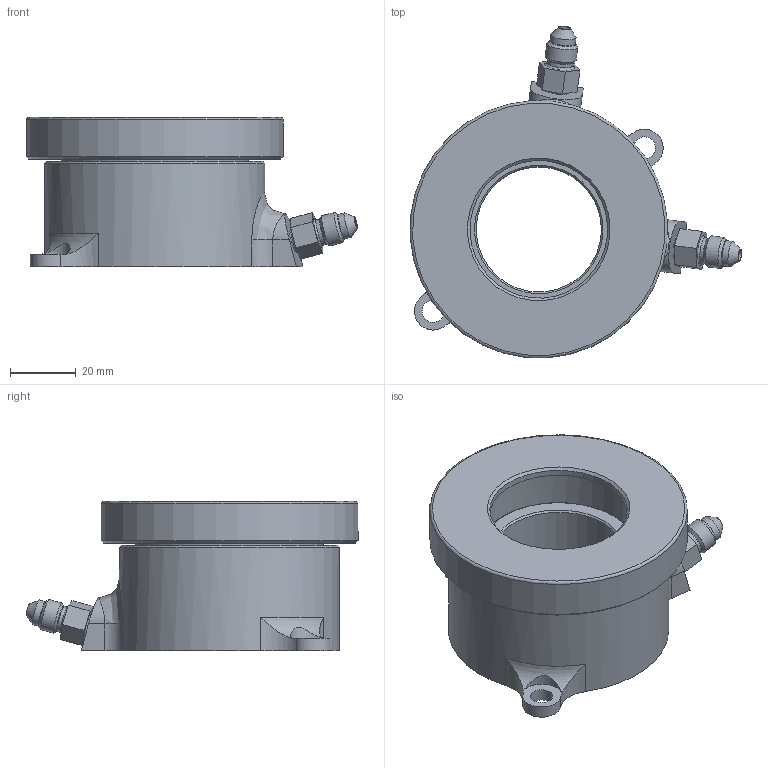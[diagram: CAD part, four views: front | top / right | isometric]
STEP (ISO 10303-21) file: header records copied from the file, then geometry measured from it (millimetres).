
FILE_DESCRIPTION(/* description */ ('Unknown'),/* implementation_level */ '2;1');
FILE_NAME(/* name */ '60-8100 SIMPLIFIED',/* time_stamp */ '2016-10-03T16:31:44-07:00',/* author */ ('Unknown'),/* organization */ ('Unknown'),/* preprocessor_version */ 'ST-DEVELOPER v16.7',/* originating_system */ 'DEX',/* authorisation */ $);
FILE_SCHEMA (('AUTOMOTIVE_DESIGN {1 0 10303 214 3 1 1}'));
Length unit declared in the file: millimetre
Products named in the file (1): 60-8100 SIMPLIFIED
Bounding box: 100.88 x 101.06 x 45.39 mm (x, y, z)
Volume: 115176.1 mm3; surface area: 44370.2 mm2
Topology: 4 solids, 5 shells, 238 faces, 691 edges, 463 vertices
Faces by surface type: plane 66, sphere 58, torus 50, cylinder 48, cone 14, bspline 2
Full cylindrical faces by diameter (mm): 3.175 x2, 6.756 x2, 7.734 x2, 7.925 x4, 9.525 x2, 38.1 x1, 41.91 x1, 47.676 x1, 50.8 x1, 50.832 x1, 57.099 x1, 60.96 x1, 61.595 x1, 61.925 x1, 62.408 x3, 63.119 x1, 67.056 x1, 68.199 x1, 70.485 x2, 72.974 x1, 73 x1, 74.295 x1, 74.93 x1, 78.41 x1
Entity records: 16906 total; most frequent: CARTESIAN_POINT 10702, DIRECTION 1044, ORIENTED_EDGE 1038, EDGE_CURVE 519, AXIS2_PLACEMENT_3D 487, VERTEX_POINT 373, EDGE_LOOP 326, FACE_BOUND 326
